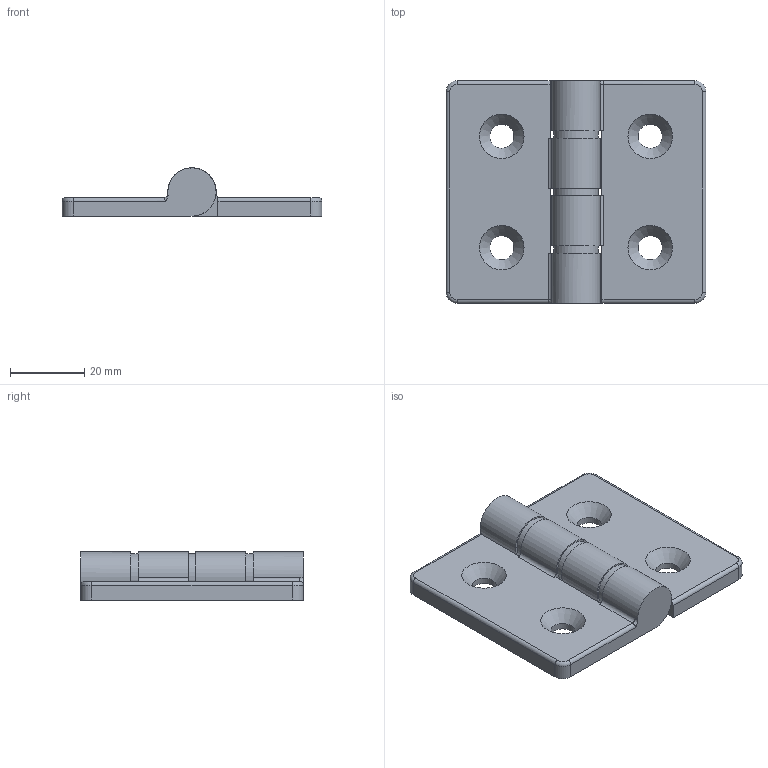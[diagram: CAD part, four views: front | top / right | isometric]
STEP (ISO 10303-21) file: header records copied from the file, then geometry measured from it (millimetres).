
FILE_DESCRIPTION(/* description */ (''),/* implementation_level */ '2;1');
FILE_NAME(/* name */ '\\NAS\db20\HS6070\DR_HS6070.stp',/* time_stamp */ '2017-08-21T09:48:28+09:00',/* author */ ('user'),/* organization */ (''),/* preprocessor_version */ 'ST-DEVELOPER v15.6',/* originating_system */ 'Autodesk Inventor 2015',/* authorisation */ '');
FILE_SCHEMA (('AUTOMOTIVE_DESIGN { 1 0 10303 214 3 1 1 }'));
Length unit declared in the file: millimetre
Products named in the file (3): DR_HS6070; DR_HS6070-WASHER
Bounding box: 70 x 60 x 12.99 mm (x, y, z)
Volume: 24058.5 mm3; surface area: 12301.9 mm2
Topology: 5 solids, 5 shells, 61 faces, 143 edges, 92 vertices
Faces by surface type: plane 26, cylinder 25, torus 4, cone 4, bspline 2
Full cylindrical faces by diameter (mm): 6.5 x4, 12 x3
Entity records: 981 total; most frequent: CARTESIAN_POINT 214, DIRECTION 159, ORIENTED_EDGE 126, EDGE_CURVE 63, AXIS2_PLACEMENT_3D 63, VERTEX_POINT 43, EDGE_LOOP 38, LINE 33
